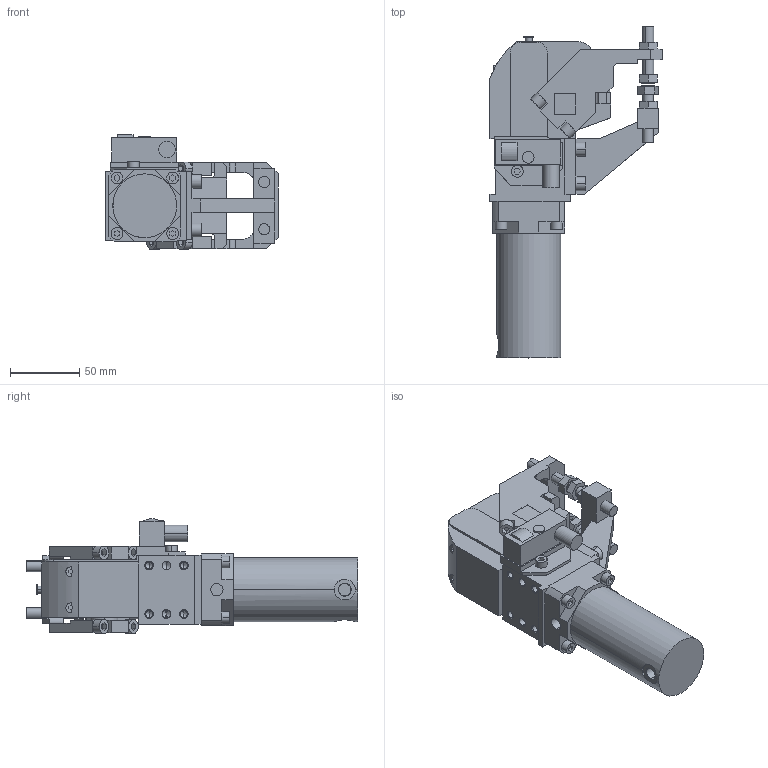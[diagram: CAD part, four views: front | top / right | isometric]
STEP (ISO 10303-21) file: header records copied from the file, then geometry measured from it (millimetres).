
FILE_DESCRIPTION (( 'STEP AP214' ), '1' );
FILE_NAME ('g40.1_g2_2__a.STEP', '2014-03-17T09:49:37', ( 'vep' ), ( 'TOSHIBA' ), 'SwSTEP 2.0', 'SolidWorks 2013', '' );
FILE_SCHEMA (( 'AUTOMOTIVE_DESIGN' ));
Length unit declared in the file: millimetre
Products named in the file (8): g40.1_leva_g2; blocchetto_p&f_90; g40.1_cilindro; g40.1_corpo; g40.1_supporto_g2_2; dado_basso_m8_din936_1_154; g40.1_g2_2__a; piedino_zigrinato_M8x35_3_329
Assembly tree (13 placements, depth 2):
  g40.1_g2_2__a
    g40.1_corpo
    g40.1_cilindro
    blocchetto_p&f_90
    g40.1_leva_g2
    piedino_zigrinato_M8x35_3_329  x4
    dado_basso_m8_din936_1_154  x4
    g40.1_supporto_g2_2
Bounding box: 124 x 239.2 x 82.8 mm (x, y, z)
Volume: 649642.2 mm3; surface area: 113567.6 mm2
Topology: 14 solids, 14 shells, 1061 faces, 2503 edges, 1589 vertices
Faces by surface type: plane 781, cylinder 228, cone 52
Entity records: 20245 total; most frequent: CARTESIAN_POINT 3624, DIRECTION 3207, ORIENTED_EDGE 3158, EDGE_CURVE 1579, VECTOR 1169, LINE 1169, AXIS2_PLACEMENT_3D 1019, VERTEX_POINT 1010
